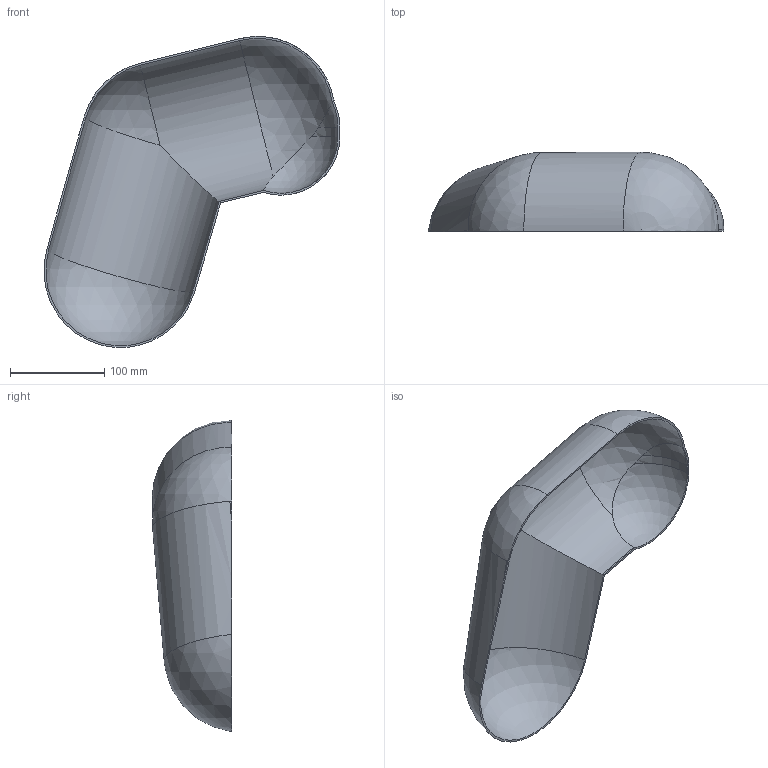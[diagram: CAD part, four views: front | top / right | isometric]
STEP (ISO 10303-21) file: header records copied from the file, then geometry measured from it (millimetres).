
FILE_DESCRIPTION(('Open CASCADE Model'),'2;1');
FILE_NAME('Open CASCADE Shape Model','2026-11-10T19:16:47',('Author'),( 'Open CASCADE'),'Open CASCADE STEP processor 8.0','Open CASCADE 8.0' ,'Unknown');
FILE_SCHEMA(('AUTOMOTIVE_DESIGN { 1 0 10303 214 1 1 1 1 }'));
Length unit declared in the file: millimetre
Products named in the file (1): Open CASCADE STEP translator 8.0 8
Bounding box: 313.11 x 83.77 x 329.35 mm (x, y, z)
Volume: 207488.2 mm3; surface area: 209550.9 mm2
Topology: 1 solids, 1 shells, 25 faces, 72 edges, 46 vertices
Faces by surface type: sphere 12, cylinder 12, plane 1
Entity records: 4718 total; most frequent: CARTESIAN_POINT 3424, DIRECTION 230, ORIENTED_EDGE 136, PCURVE 136, DEFINITIONAL_REPRESENTATION 136, AXIS2_PLACEMENT_3D 76, B_SPLINE_CURVE_WITH_KNOTS 76, EDGE_CURVE 68
